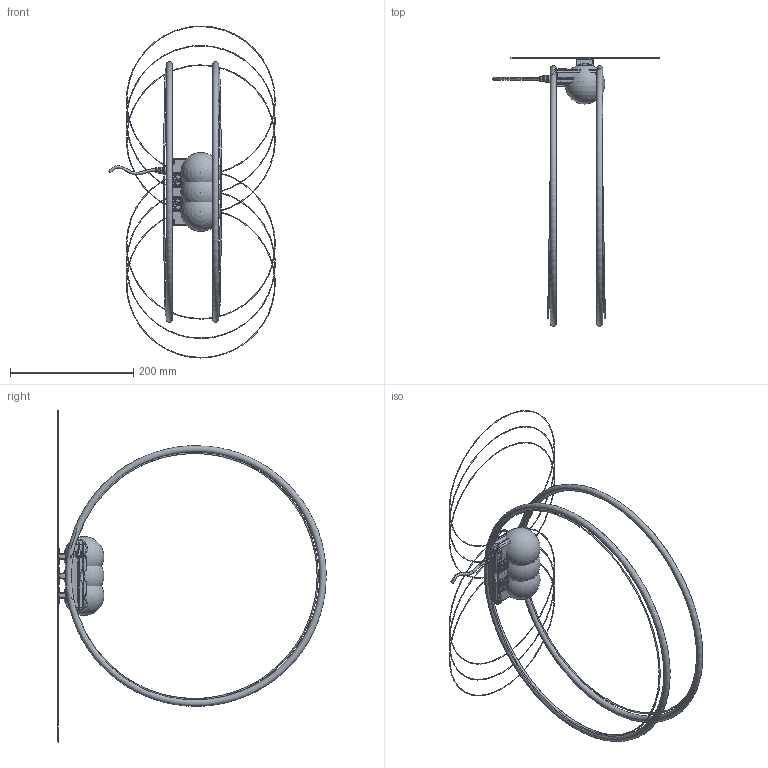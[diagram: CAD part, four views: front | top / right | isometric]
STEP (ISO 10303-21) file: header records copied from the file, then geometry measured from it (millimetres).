
FILE_DESCRIPTION((''),'2;1');
FILE_NAME('1','2014-06-04T',('tony'),(''),'PRO/ENGINEER BY PARAMETRIC TECHNOLOGY CORPORATION, 2008090','PRO/ENGINEER BY PARAMETRIC TECHNOLOGY CORPORATION, 2008090','');
FILE_SCHEMA(('CONFIG_CONTROL_DESIGN'));
Products named in the file (1): 1
Bounding box: 269.95 x 434.9 x 538.15 mm (x, y, z)
Surface area: 488704 mm2 (no closed solid volume)
Topology: 0 solids, 0 shells, 1824 faces, 10073 edges, 9837 vertices
Faces by surface type: bspline 1574, torus 238, sphere 12
Entity records: 156624 total; most frequent: CARTESIAN_POINT 71425, DIRECTION 13770, TRIMMED_CURVE 11244, DEFINITIONAL_REPRESENTATION 9592, PCURVE 9592, COMPOSITE_CURVE_SEGMENT 9592, VECTOR 9218, LINE 9218
